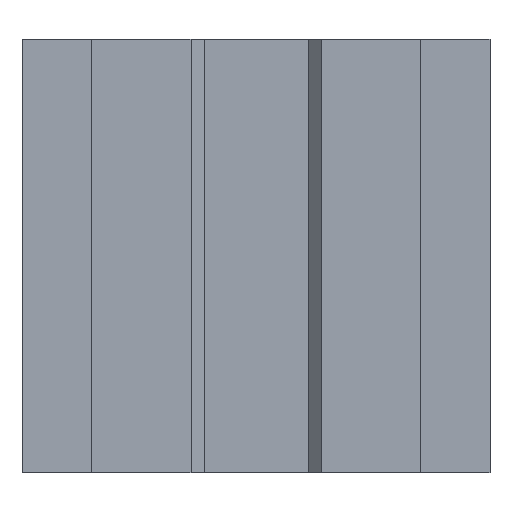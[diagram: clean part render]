
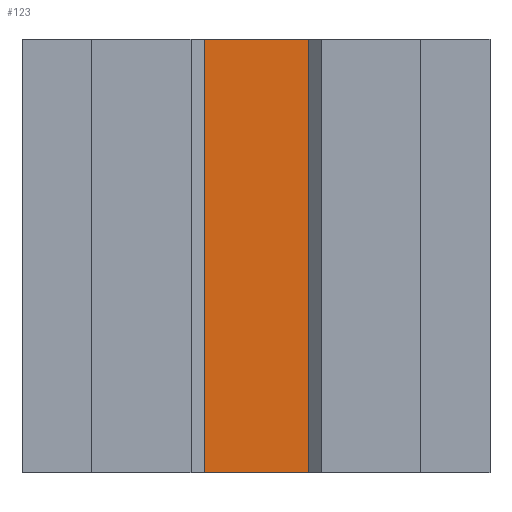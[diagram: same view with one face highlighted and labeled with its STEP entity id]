
A CAD part, front view. The second image highlights one B-rep face of the part: STEP entity #123.
In plain terms, the highlighted planar face has unit normal (0, -1, 0).
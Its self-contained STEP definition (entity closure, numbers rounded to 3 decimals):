
#16 = ORIENTED_EDGE ( 'NONE', *, *, #61, .T. ) ;
#45 = VERTEX_POINT ( 'NONE', #567 ) ;
#61 = EDGE_CURVE ( 'NONE', #45, #152, #687, .T. ) ;
#99 = EDGE_LOOP ( 'NONE', ( #2864, #534, #2560, #16 ) ) ;
#123 = ADVANCED_FACE ( 'NONE', ( #990 ), #991, .F. ) ;
#152 = VERTEX_POINT ( 'NONE', #1134 ) ;
#307 = CARTESIAN_POINT ( 'NONE',  ( 6., 5., 0. ) ) ;
#418 = LINE ( 'NONE', #419, #420 ) ;
#419 = CARTESIAN_POINT ( 'NONE',  ( 6., 5., 0. ) ) ;
#420 = VECTOR ( 'NONE', #421, 1000. ) ;
#421 = DIRECTION ( 'NONE',  ( 1., 0., 0. ) ) ;
#534 = ORIENTED_EDGE ( 'NONE', *, *, #2406, .F. ) ;
#567 = CARTESIAN_POINT ( 'NONE',  ( -6., 5., 50. ) ) ;
#687 = LINE ( 'NONE', #688, #689 ) ;
#688 = CARTESIAN_POINT ( 'NONE',  ( -6., 5., 50. ) ) ;
#689 = VECTOR ( 'NONE', #690, 1000. ) ;
#690 = DIRECTION ( 'NONE',  ( 0., 0., -1. ) ) ;
#740 = LINE ( 'NONE', #741, #742 ) ;
#741 = CARTESIAN_POINT ( 'NONE',  ( 6., 5., 50. ) ) ;
#742 = VECTOR ( 'NONE', #743, 1000. ) ;
#743 = DIRECTION ( 'NONE',  ( 0., 0., -1. ) ) ;
#990 = FACE_OUTER_BOUND ( 'NONE', #99, .T. ) ;
#991 = PLANE ( 'NONE',  #992 ) ;
#992 = AXIS2_PLACEMENT_3D ( 'NONE', #993, #994, #995 ) ;
#993 = CARTESIAN_POINT ( 'NONE',  ( 6., 5., 50. ) ) ;
#994 = DIRECTION ( 'NONE',  ( 0., 1., 0. ) ) ;
#995 = DIRECTION ( 'NONE',  ( 0., 0., 1. ) ) ;
#1134 = CARTESIAN_POINT ( 'NONE',  ( -6., 5., 0. ) ) ;
#1303 = LINE ( 'NONE', #1304, #1305 ) ;
#1304 = CARTESIAN_POINT ( 'NONE',  ( 6., 5., 50. ) ) ;
#1305 = VECTOR ( 'NONE', #1306, 1000. ) ;
#1306 = DIRECTION ( 'NONE',  ( 1., 0., 0. ) ) ;
#1527 = CARTESIAN_POINT ( 'NONE',  ( 6., 5., 50. ) ) ;
#2406 = EDGE_CURVE ( 'NONE', #2581, #2833, #740, .T. ) ;
#2521 = EDGE_CURVE ( 'NONE', #45, #2581, #1303, .T. ) ;
#2560 = ORIENTED_EDGE ( 'NONE', *, *, #2521, .F. ) ;
#2581 = VERTEX_POINT ( 'NONE', #1527 ) ;
#2833 = VERTEX_POINT ( 'NONE', #307 ) ;
#2848 = EDGE_CURVE ( 'NONE', #152, #2833, #418, .T. ) ;
#2864 = ORIENTED_EDGE ( 'NONE', *, *, #2848, .T. ) ;
